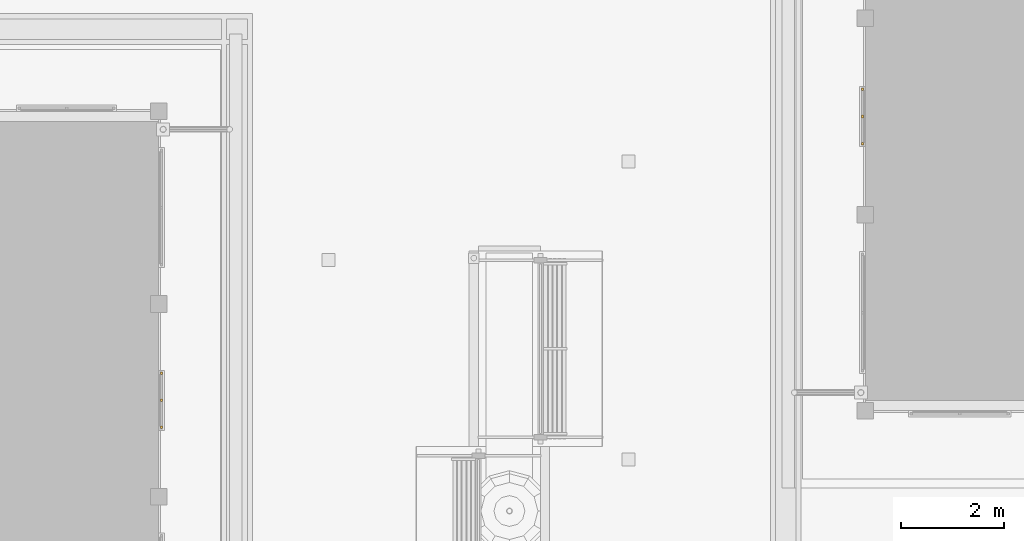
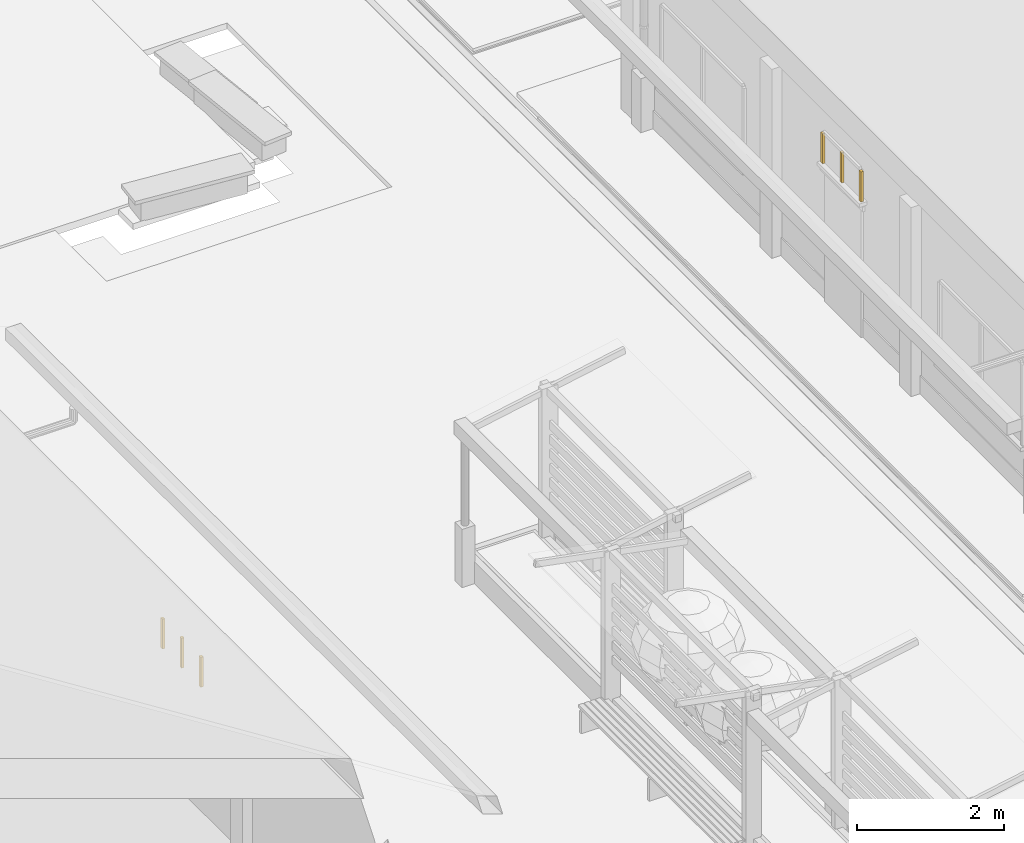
# One storey, part 80 of 177: 6 windows.
"""IFC4 building model written with IfcOpenShell, lengths in metres."""

from ifc_helpers import new_model, si_unit, origin, origin_with_axes, place, context, subcontext, project, spatial, triangles, element, save


model = new_model("IFC4")

# Units and contexts
model_context = context("Model", 3, precision=1e-05, world=origin_with_axes())
body_context = subcontext(model_context, "Body", "Model", "MODEL_VIEW")
ifc_project = project(units=[si_unit("LENGTHUNIT", "METRE"), si_unit("AREAUNIT", "SQUARE_METRE"), si_unit("VOLUMEUNIT", "CUBIC_METRE"), si_unit("PLANEANGLEUNIT", "RADIAN")], contexts=[model_context])

# Site, building, storey
site_placement = place(None, origin_with_axes())
site = spatial("IfcSite", under=ifc_project, at=site_placement, Name="Predio Los Mangos - Morales, San Martín", CompositionType="ELEMENT")
building_placement = place(site_placement, origin())
building = spatial("IfcBuilding", under=site, at=building_placement, Name="Hogar de Refugio Temporal", CompositionType="ELEMENT")
storey_placement = place(building_placement, origin())
storey = spatial("IfcBuildingStorey", under=building, at=storey_placement, Name="NIVEL 1 (NPT +0.00)", CompositionType="ELEMENT", Elevation=0.0)

# Windows
window_1_placement = place(storey_placement, origin())
element("IfcWindow", 1, at=window_1_placement, inside=storey, Name="E-01_vt4_m", ObjectType="Ventana", PredefinedType="WINDOW", context=body_context, shape_type="Tessellation", body=[
    triangles([(31.64, 42.55, 2.45), (31.68, 42.55, 2.45), (31.68, 42.6, 2.45), (31.64, 42.6, 2.45), (31.64, 42.55, 2.95), (31.68, 42.55, 2.95), (31.68, 42.6, 2.95), (31.64, 42.6, 2.95)], [[1, 4, 3], [1, 3, 2], [5, 6, 7], [5, 7, 8], [1, 2, 6], [1, 6, 5], [2, 3, 7], [2, 7, 6], [3, 4, 8], [3, 8, 7], [4, 1, 5], [4, 5, 8]]),
])
window_2_placement = place(storey_placement, origin())
element("IfcWindow", 2, at=window_2_placement, inside=storey, Name="E-01_vt4_m", ObjectType="Ventana", PredefinedType="WINDOW", context=body_context, shape_type="Tessellation", body=[
    triangles([(31.64, 43.6, 2.45), (31.68, 43.6, 2.45), (31.68, 43.65, 2.45), (31.64, 43.65, 2.45), (31.64, 43.6, 2.95), (31.68, 43.6, 2.95), (31.68, 43.65, 2.95), (31.64, 43.65, 2.95)], [[1, 4, 3], [1, 3, 2], [5, 6, 7], [5, 7, 8], [1, 2, 6], [1, 6, 5], [2, 3, 7], [2, 7, 6], [3, 4, 8], [3, 8, 7], [4, 1, 5], [4, 5, 8]]),
])
window_3_placement = place(storey_placement, origin())
element("IfcWindow", 3, at=window_3_placement, inside=storey, Name="E-01_vt4_m", ObjectType="Ventana", PredefinedType="WINDOW", context=body_context, shape_type="Tessellation", body=[
    triangles([(31.64, 43.075, 2.45), (31.68, 43.075, 2.45), (31.68, 43.125, 2.45), (31.64, 43.125, 2.45), (31.64, 43.075, 2.95), (31.68, 43.075, 2.95), (31.68, 43.125, 2.95), (31.64, 43.125, 2.95)], [[1, 4, 3], [1, 3, 2], [5, 6, 7], [5, 7, 8], [1, 2, 6], [1, 6, 5], [2, 3, 7], [2, 7, 6], [3, 4, 8], [3, 8, 7], [4, 1, 5], [4, 5, 8]]),
])
window_4_placement = place(storey_placement, origin())
element("IfcWindow", 4, at=window_4_placement, inside=storey, Name="E-02_vt1_m", ObjectType="Ventana", PredefinedType="WINDOW", context=body_context, shape_type="Tessellation", body=[
    triangles([(45.22, 48.05, 2.45), (45.26, 48.05, 2.45), (45.26, 48.1, 2.45), (45.22, 48.1, 2.45), (45.22, 48.05, 2.95), (45.26, 48.05, 2.95), (45.26, 48.1, 2.95), (45.22, 48.1, 2.95)], [[1, 4, 3], [1, 3, 2], [5, 6, 7], [5, 7, 8], [1, 2, 6], [1, 6, 5], [2, 3, 7], [2, 7, 6], [3, 4, 8], [3, 8, 7], [4, 1, 5], [4, 5, 8]]),
])
window_5_placement = place(storey_placement, origin())
element("IfcWindow", 5, at=window_5_placement, inside=storey, Name="E-02_vt1_m", ObjectType="Ventana", PredefinedType="WINDOW", context=body_context, shape_type="Tessellation", body=[
    triangles([(45.22, 49.1, 2.45), (45.26, 49.1, 2.45), (45.26, 49.15, 2.45), (45.22, 49.15, 2.45), (45.22, 49.1, 2.95), (45.26, 49.1, 2.95), (45.26, 49.15, 2.95), (45.22, 49.15, 2.95)], [[1, 4, 3], [1, 3, 2], [5, 6, 7], [5, 7, 8], [1, 2, 6], [1, 6, 5], [2, 3, 7], [2, 7, 6], [3, 4, 8], [3, 8, 7], [4, 1, 5], [4, 5, 8]]),
])
window_6_placement = place(storey_placement, origin())
element("IfcWindow", 6, at=window_6_placement, inside=storey, Name="E-02_vt1_m", ObjectType="Ventana", PredefinedType="WINDOW", context=body_context, shape_type="Tessellation", body=[
    triangles([(45.22, 48.575, 2.45), (45.26, 48.575, 2.45), (45.26, 48.625, 2.45), (45.22, 48.625, 2.45), (45.22, 48.575, 2.95), (45.26, 48.575, 2.95), (45.26, 48.625, 2.95), (45.22, 48.625, 2.95)], [[1, 4, 3], [1, 3, 2], [5, 6, 7], [5, 7, 8], [1, 2, 6], [1, 6, 5], [2, 3, 7], [2, 7, 6], [3, 4, 8], [3, 8, 7], [4, 1, 5], [4, 5, 8]]),
])

save(model, "model.ifc")
